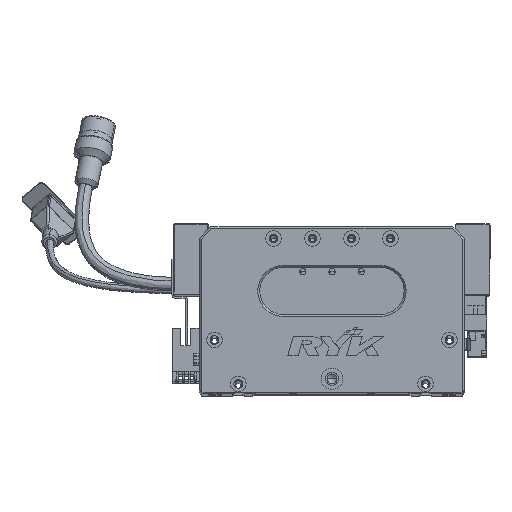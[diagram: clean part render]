
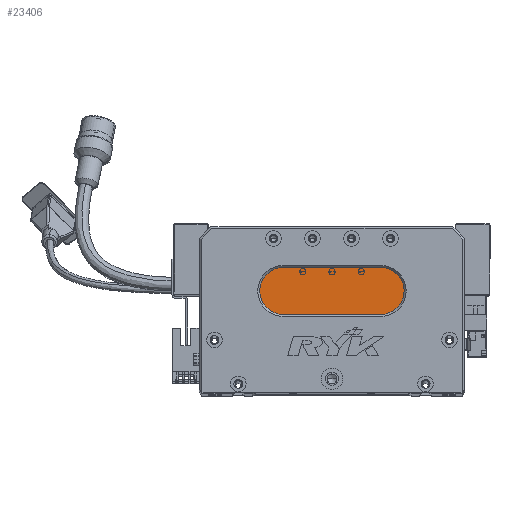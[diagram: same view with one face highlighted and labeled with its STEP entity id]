
A CAD part, top view. The second image highlights one B-rep face of the part: STEP entity #23406.
In plain terms, the highlighted planar face has unit normal (0, 0, 1) as drawn and (0, 0, -1) by its records, which use the part's own axes.
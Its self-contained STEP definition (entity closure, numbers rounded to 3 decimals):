
#3927 = DIRECTION ( 'NONE',  ( -1., 0., 0. ) ) ;
#4540 = ORIENTED_EDGE ( 'NONE', *, *, #71238, .T. ) ;
#4600 = VERTEX_POINT ( 'NONE', #70715 ) ;
#5615 = VECTOR ( 'NONE', #41649, 1000. ) ;
#7109 = CARTESIAN_POINT ( 'NONE',  ( 43., 52., 13. ) ) ;
#7683 = AXIS2_PLACEMENT_3D ( 'NONE', #7718, #19569, #19055 ) ;
#7718 = CARTESIAN_POINT ( 'NONE',  ( 93., 52., 13. ) ) ;
#7888 = DIRECTION ( 'NONE',  ( -1., 0., 0. ) ) ;
#8244 = CIRCLE ( 'NONE', #7683, 12. ) ;
#8345 = VERTEX_POINT ( 'NONE', #61193 ) ;
#9927 = EDGE_CURVE ( 'NONE', #11179, #8345, #75816, .T. ) ;
#10955 = CARTESIAN_POINT ( 'NONE',  ( 93., 52., 13. ) ) ;
#11179 = VERTEX_POINT ( 'NONE', #56496 ) ;
#13891 = VECTOR ( 'NONE', #27125, 1000. ) ;
#14771 = VERTEX_POINT ( 'NONE', #23674 ) ;
#15184 = CARTESIAN_POINT ( 'NONE',  ( 43., 64., 13. ) ) ;
#19055 = DIRECTION ( 'NONE',  ( -1., 0., 0. ) ) ;
#19569 = DIRECTION ( 'NONE',  ( 0., 0., -1. ) ) ;
#20710 = CARTESIAN_POINT ( 'NONE',  ( 93., 64., 13. ) ) ;
#20815 = AXIS2_PLACEMENT_3D ( 'NONE', #56553, #74523, #25539 ) ;
#22498 = PLANE ( 'NONE',  #32165 ) ;
#23406 = ADVANCED_FACE ( 'NONE', ( #38486 ), #22498, .T. ) ;
#23674 = CARTESIAN_POINT ( 'NONE',  ( 93., 64., 13. ) ) ;
#25023 = EDGE_LOOP ( 'NONE', ( #52340, #67361, #79529, #44123, #4540 ) ) ;
#25539 = DIRECTION ( 'NONE',  ( -1., 0., 0. ) ) ;
#27125 = DIRECTION ( 'NONE',  ( 1., 0., 0. ) ) ;
#28352 = EDGE_CURVE ( 'NONE', #14771, #4600, #8244, .T. ) ;
#32165 = AXIS2_PLACEMENT_3D ( 'NONE', #10955, #53262, #3927 ) ;
#35257 = CARTESIAN_POINT ( 'NONE',  ( 93., 40., 13. ) ) ;
#37068 = CIRCLE ( 'NONE', #20815, 12. ) ;
#38486 = FACE_OUTER_BOUND ( 'NONE', #25023, .T. ) ;
#41649 = DIRECTION ( 'NONE',  ( -1., 0., 0. ) ) ;
#41755 = VERTEX_POINT ( 'NONE', #15184 ) ;
#44123 = ORIENTED_EDGE ( 'NONE', *, *, #57460, .T. ) ;
#52340 = ORIENTED_EDGE ( 'NONE', *, *, #28352, .T. ) ;
#53262 = DIRECTION ( 'NONE',  ( 0., 0., -1. ) ) ;
#56496 = CARTESIAN_POINT ( 'NONE',  ( 43., 40., 13. ) ) ;
#56553 = CARTESIAN_POINT ( 'NONE',  ( 43., 52., 13. ) ) ;
#57460 = EDGE_CURVE ( 'NONE', #8345, #41755, #37068, .T. ) ;
#59333 = LINE ( 'NONE', #35257, #5615 ) ;
#61193 = CARTESIAN_POINT ( 'NONE',  ( 31., 52., 13. ) ) ;
#65853 = AXIS2_PLACEMENT_3D ( 'NONE', #7109, #67983, #7888 ) ;
#67361 = ORIENTED_EDGE ( 'NONE', *, *, #73703, .T. ) ;
#67983 = DIRECTION ( 'NONE',  ( 0., 0., -1. ) ) ;
#70715 = CARTESIAN_POINT ( 'NONE',  ( 93., 40., 13. ) ) ;
#71238 = EDGE_CURVE ( 'NONE', #41755, #14771, #74313, .T. ) ;
#73703 = EDGE_CURVE ( 'NONE', #4600, #11179, #59333, .T. ) ;
#74313 = LINE ( 'NONE', #20710, #13891 ) ;
#74523 = DIRECTION ( 'NONE',  ( 0., 0., -1. ) ) ;
#75816 = CIRCLE ( 'NONE', #65853, 12. ) ;
#79529 = ORIENTED_EDGE ( 'NONE', *, *, #9927, .T. ) ;
